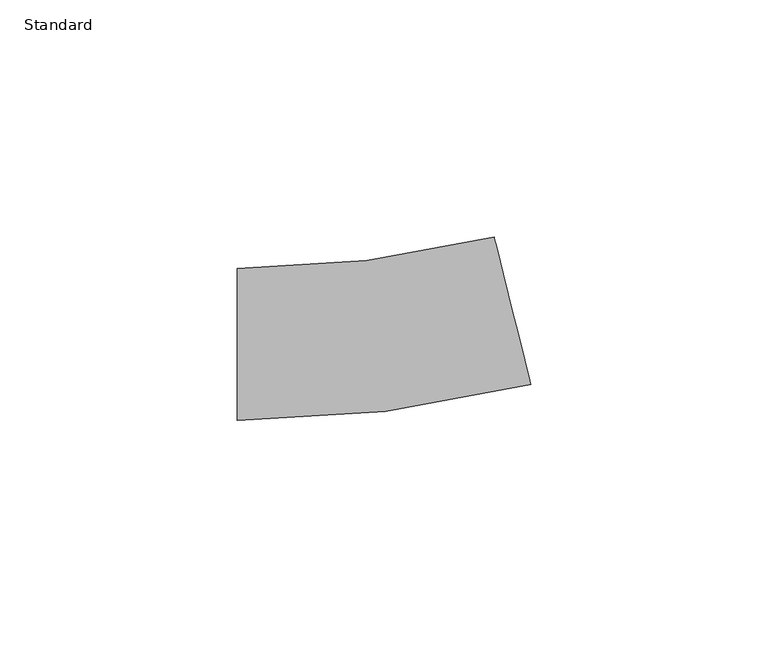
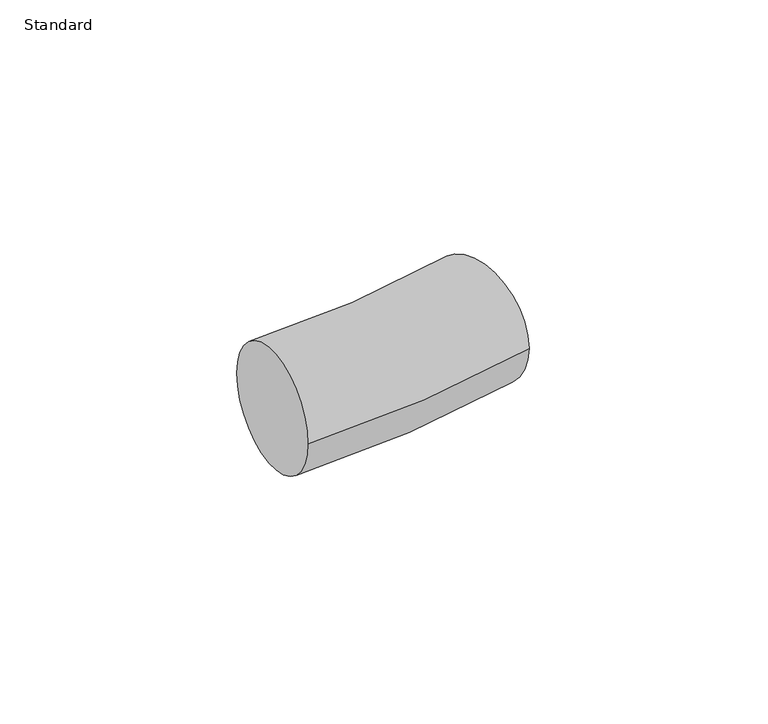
"""IFC4 building model written with IfcOpenShell, lengths in millimetres: pipe fitting geometry, COMAP - MULTISKIN - Coude Cintre : Standard."""

from ifc_helpers import new_model, si_unit, point, frame, origin, place, context, project, spatial, circle_curve, ellipse_curve, trimmed, source, transform, mapped, element, save
from ifc_brep_helpers import plane_surface, revolved_surface, advanced_brep


def standard_a543c9cd(model_context):
    return source(origin(), model_context, "Body", "AdvancedBrep", [
        advanced_brep(
        [(-29.4063467, -16.0, 0.0), (-29.4063467, 16.0, 0.0), (32.3993212, -8.4271713, 0.0), (24.6736127, 22.6262252, 0.0)],
        [
            (0, 1, circle_curve(frame((-29.4063467, 0.0, 0.0), z_axis=(-1.0, 0.0, 0.0), x_axis=(0.0, 1.0, 0.0)), 16.0)),
            (1, 0, circle_curve(frame((-29.4063467, 0.0, 0.0), z_axis=(-1.0, 0.0, 0.0), x_axis=(0.0, 1.0, 0.0)), 16.0)),
            (2, 3, circle_curve(frame((28.5364669, 7.0995269, 0.0), z_axis=(0.970418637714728, 0.24142839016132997, 0.0), x_axis=(-0.24142839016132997, 0.970418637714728, 0.0)), 16.0)),
            (3, 2, circle_curve(frame((28.5364669, 7.0995269, 0.0), z_axis=(0.970418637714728, 0.24142839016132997, 0.0), x_axis=(-0.24142839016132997, 0.970418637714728, 0.0)), 16.0)),
            (3, 1, circle_curve(frame((-29.4063467, 240.0, 0.0), z_axis=(0.0, 0.0, -1.0), x_axis=(0.0, -1.0, 0.0)), 224.0)),
            (0, 2, circle_curve(frame((-29.4063467, 240.0, 0.0), z_axis=(0.0, 0.0, 1.0), x_axis=(0.0, -1.0, 0.0)), 256.0)),
        ],
        [
            plane_surface(frame((-29.4063467, 0.0, 0.0), z_axis=(-1.0, 0.0, 0.0), x_axis=(0.0, 0.0, 1.0))),
            plane_surface(frame((28.5364669, 7.0995269, 0.0), z_axis=(0.9704186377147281, 0.2414283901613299, 0.0), x_axis=(0.0, 0.0, 1.0))),
            revolved_surface(trimmed(ellipse_curve(frame((-29.4063467, 0.0, 0.0), z_axis=(-1.0, 0.0, 0.0), x_axis=(0.0, 1.0, 0.0)), 16.0, 16.0), [point((-29.4063467, -16.0, 0.0))], [point((-29.4063467, 16.0, 0.0))], True, "CARTESIAN"), (-29.4063467, 240.0, 0.0), (0.0, 0.0, 1.0)),
            revolved_surface(trimmed(ellipse_curve(frame((-29.4063467, 0.0, 0.0), z_axis=(-1.0, 0.0, 0.0), x_axis=(0.0, 1.0, 0.0)), 16.0, 16.0), [point((-29.4063467, 16.0, 0.0))], [point((-29.4063467, -16.0, 0.0))], True, "CARTESIAN"), (-29.4063467, 240.0, 0.0), (0.0, 0.0, 1.0)),
        ],
        [
            (0, [[1, 2]]),
            (1, [[3, 4]]),
            (2, [[5, -1, 6, -4]]),
            (3, [[-6, -2, -5, -3]]),
        ],
    ),
        advanced_brep(
        [(-29.4063467, -16.0, 0.0), (-29.4063467, 16.0, 0.0), (32.3993212, -8.4271713, 0.0), (24.6736127, 22.6262252, 0.0)],
        [
            (0, 1, circle_curve(frame((-29.4063467, 0.0, 0.0), z_axis=(-1.0, 0.0, 0.0), x_axis=(0.0, 1.0, 0.0)), 16.0)),
            (1, 0, circle_curve(frame((-29.4063467, 0.0, 0.0), z_axis=(-1.0, 0.0, 0.0), x_axis=(0.0, 1.0, 0.0)), 16.0)),
            (2, 3, circle_curve(frame((28.5364669, 7.0995269, 0.0), z_axis=(0.970418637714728, 0.24142839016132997, 0.0), x_axis=(-0.24142839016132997, 0.970418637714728, 0.0)), 16.0)),
            (3, 2, circle_curve(frame((28.5364669, 7.0995269, 0.0), z_axis=(0.970418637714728, 0.24142839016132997, 0.0), x_axis=(-0.24142839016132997, 0.970418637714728, 0.0)), 16.0)),
            (3, 1, circle_curve(frame((-29.4063467, 240.0, 0.0), z_axis=(0.0, 0.0, -1.0), x_axis=(0.0, -1.0, 0.0)), 224.0)),
            (0, 2, circle_curve(frame((-29.4063467, 240.0, 0.0), z_axis=(0.0, 0.0, 1.0), x_axis=(0.0, -1.0, 0.0)), 256.0)),
        ],
        [
            plane_surface(frame((-29.4063467, 0.0, 0.0), z_axis=(-1.0, 0.0, 0.0), x_axis=(0.0, 0.0, 1.0))),
            plane_surface(frame((28.5364669, 7.0995269, 0.0), z_axis=(0.9704186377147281, 0.2414283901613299, 0.0), x_axis=(0.0, 0.0, 1.0))),
            revolved_surface(trimmed(ellipse_curve(frame((-29.4063467, 0.0, 0.0), z_axis=(-1.0, 0.0, 0.0), x_axis=(0.0, 1.0, 0.0)), 16.0, 16.0), [point((-29.4063467, -16.0, 0.0))], [point((-29.4063467, 16.0, 0.0))], True, "CARTESIAN"), (-29.4063467, 240.0, 0.0), (0.0, 0.0, 1.0)),
            revolved_surface(trimmed(ellipse_curve(frame((-29.4063467, 0.0, 0.0), z_axis=(-1.0, 0.0, 0.0), x_axis=(0.0, 1.0, 0.0)), 16.0, 16.0), [point((-29.4063467, 16.0, 0.0))], [point((-29.4063467, -16.0, 0.0))], True, "CARTESIAN"), (-29.4063467, 240.0, 0.0), (0.0, 0.0, 1.0)),
        ],
        [
            (0, [[1, 2]]),
            (1, [[3, 4]]),
            (2, [[5, -1, 6, -4]]),
            (3, [[-6, -2, -5, -3]]),
        ],
    ),
    ])


if __name__ == "__main__":
    model = new_model("IFC4")
    model_context = context("Model", 3, world=origin())
    ifc_project = project(units=[si_unit("LENGTHUNIT", "METRE", prefix="MILLI")], contexts=[model_context])
    site = spatial("IfcSite", under=ifc_project)
    building = spatial("IfcBuilding", under=site)
    placement = place(None, origin())
    standard_shape = standard_a543c9cd(model_context)
    element("IfcPipeFitting", 1, ObjectType="COMAP - MULTISKIN - Coude Cintre : Standard", at=placement, inside=building, context=model_context, shape_type="MappedRepresentation", body=[
        mapped(standard_shape, transform((0.0, 0.0, 0.0), x_axis=(1.0, 0.0, 0.0), y_axis=(0.0, 1.0, 0.0), z_axis=(0.0, 0.0, 1.0))),
    ])
    save(model, "model.ifc")
